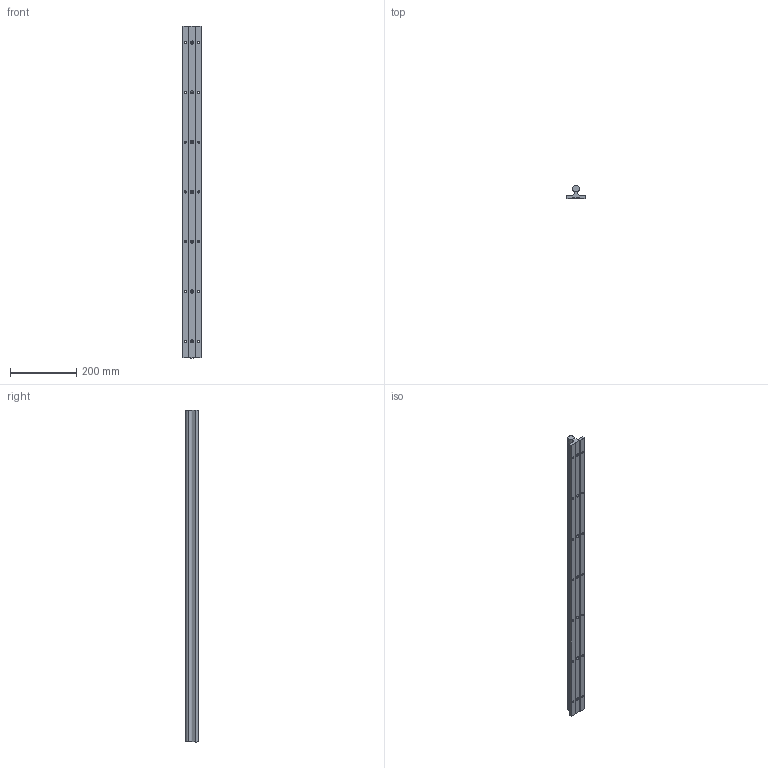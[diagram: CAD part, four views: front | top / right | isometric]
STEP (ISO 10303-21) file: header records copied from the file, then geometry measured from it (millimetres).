
FILE_DESCRIPTION (( 'STEP AP214' ), '1' );
FILE_NAME ('TBR-C20.STEP', '2020-10-01T07:46:31', ( '' ), ( '' ), 'SwSTEP 2.0', 'SolidWorks 2018', '' );
FILE_SCHEMA (( 'AUTOMOTIVE_DESIGN' ));
Length unit declared in the file: millimetre
Products named in the file (1): TBR-C20
Bounding box: 55 x 39.01 x 1000.1 mm (x, y, z)
Volume: 861376.1 mm3; surface area: 196490.4 mm2
Topology: 1 solids, 1 shells, 317 faces, 762 edges, 439 vertices
Faces by surface type: cylinder 94, cone 84, plane 75, bspline 32, torus 20, sphere 12
Entity records: 11630 total; most frequent: CARTESIAN_POINT 3337, DIRECTION 1520, ORIENTED_EDGE 1472, EDGE_CURVE 736, AXIS2_PLACEMENT_3D 562, VERTEX_POINT 439, LINE 396, VECTOR 396
